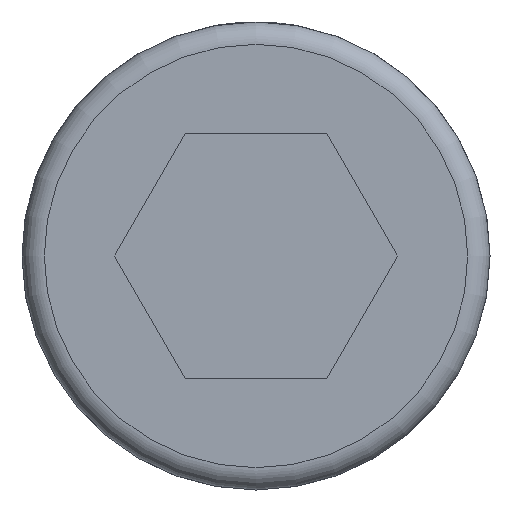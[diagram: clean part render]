
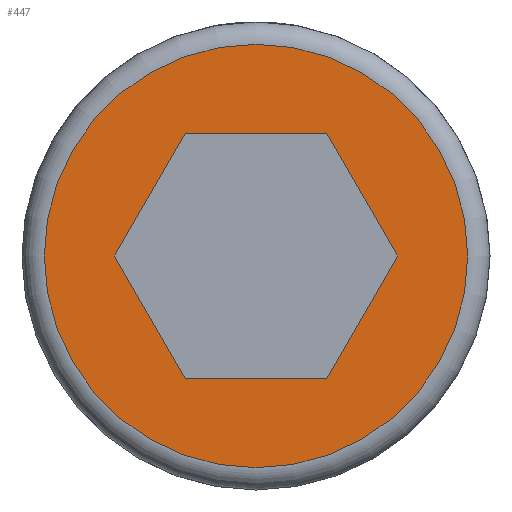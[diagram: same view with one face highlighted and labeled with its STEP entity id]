
A CAD part, left-side view. The second image highlights one B-rep face of the part: STEP entity #447.
In plain terms, the highlighted planar face has unit normal (-1, 0, 0).
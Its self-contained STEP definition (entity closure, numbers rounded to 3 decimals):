
#377=CARTESIAN_POINT('',(140.0,0.,9.5));
#378=VERTEX_POINT('',#377);
#379=CARTESIAN_POINT('',(140.0,0.0,0.0));
#380=DIRECTION('',(1.0,0.0,0.0));
#381=DIRECTION('',(0.0,0.0,-1.0));
#382=AXIS2_PLACEMENT_3D('',#379,#380,#381);
#383=CIRCLE('',#382,9.5);
#384=EDGE_CURVE('',#378,#378,#383,.T.);
#389=CARTESIAN_POINT('',(140.0,0.0,5.25));
#390=DIRECTION('',(-1.0,0.0,0.0));
#391=DIRECTION('',(0.0,0.0,1.0));
#392=AXIS2_PLACEMENT_3D('',#389,#390,#391);
#393=PLANE('',#392);
#394=ORIENTED_EDGE('',*,*,#384,.F.);
#395=EDGE_LOOP('',(#394));
#396=FACE_OUTER_BOUND('',#395,.T.);
#397=CARTESIAN_POINT('',(140.0,-3.175,-5.5));
#398=VERTEX_POINT('',#397);
#399=CARTESIAN_POINT('',(140.0,3.175,-5.5));
#400=VERTEX_POINT('',#399);
#401=CARTESIAN_POINT('',(140.0,-3.175,-5.5));
#402=DIRECTION('',(0.0,1.0,0.0));
#403=VECTOR('',#402,6.351);
#404=LINE('',#401,#403);
#405=EDGE_CURVE('',#398,#400,#404,.T.);
#406=ORIENTED_EDGE('',*,*,#405,.T.);
#407=CARTESIAN_POINT('',(140.0,6.351,0.0));
#408=VERTEX_POINT('',#407);
#409=CARTESIAN_POINT('',(140.0,3.175,-5.5));
#410=DIRECTION('',(0.0,0.5,0.866));
#411=VECTOR('',#410,6.351);
#412=LINE('',#409,#411);
#413=EDGE_CURVE('',#400,#408,#412,.T.);
#414=ORIENTED_EDGE('',*,*,#413,.T.);
#415=CARTESIAN_POINT('',(140.0,3.175,5.5));
#416=VERTEX_POINT('',#415);
#417=CARTESIAN_POINT('',(140.0,6.351,0.0));
#418=DIRECTION('',(0.0,-0.5,0.866));
#419=VECTOR('',#418,6.351);
#420=LINE('',#417,#419);
#421=EDGE_CURVE('',#408,#416,#420,.T.);
#422=ORIENTED_EDGE('',*,*,#421,.T.);
#423=CARTESIAN_POINT('',(140.0,-3.175,5.5));
#424=VERTEX_POINT('',#423);
#425=CARTESIAN_POINT('',(140.0,3.175,5.5));
#426=DIRECTION('',(0.0,-1.0,0.0));
#427=VECTOR('',#426,6.351);
#428=LINE('',#425,#427);
#429=EDGE_CURVE('',#416,#424,#428,.T.);
#430=ORIENTED_EDGE('',*,*,#429,.T.);
#431=CARTESIAN_POINT('',(140.0,-6.351,0.0));
#432=VERTEX_POINT('',#431);
#433=CARTESIAN_POINT('',(140.0,-3.175,5.5));
#434=DIRECTION('',(0.0,-0.5,-0.866));
#435=VECTOR('',#434,6.351);
#436=LINE('',#433,#435);
#437=EDGE_CURVE('',#424,#432,#436,.T.);
#438=ORIENTED_EDGE('',*,*,#437,.T.);
#439=CARTESIAN_POINT('',(140.0,-6.351,0.0));
#440=DIRECTION('',(0.0,0.5,-0.866));
#441=VECTOR('',#440,6.351);
#442=LINE('',#439,#441);
#443=EDGE_CURVE('',#432,#398,#442,.T.);
#444=ORIENTED_EDGE('',*,*,#443,.T.);
#445=EDGE_LOOP('',(#406,#414,#422,#430,#438,#444));
#446=FACE_BOUND('',#445,.T.);
#447=ADVANCED_FACE('',(#396,#446),#393,.T.);
